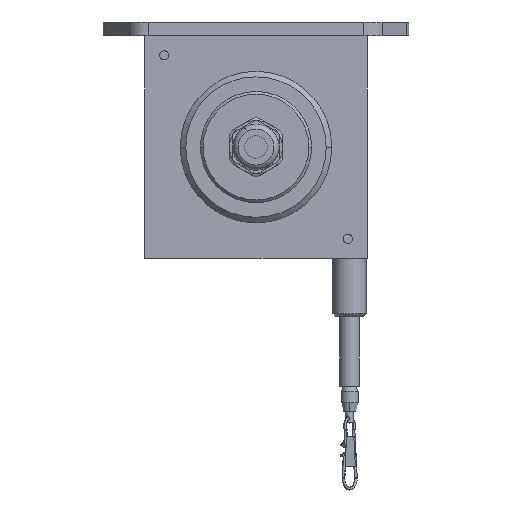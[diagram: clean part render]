
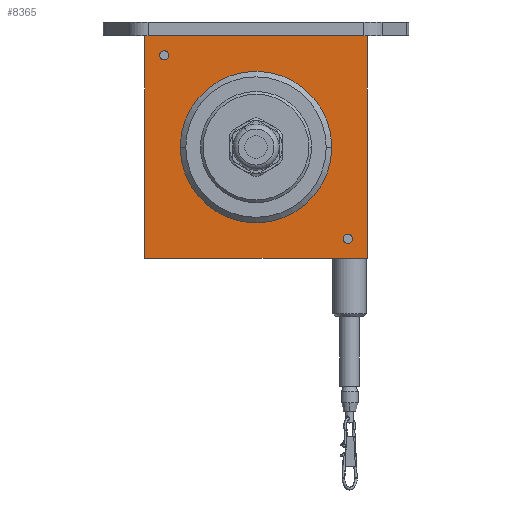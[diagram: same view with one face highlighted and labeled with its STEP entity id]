
A CAD part, left-side view. The second image highlights one B-rep face of the part: STEP entity #8365.
In plain terms, the highlighted planar face has unit normal (-1, 0, 0).
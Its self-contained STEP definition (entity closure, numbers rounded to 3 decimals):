
#417 = EDGE_LOOP ( 'NONE', ( #6076, #10473 ) ) ;
#421 = AXIS2_PLACEMENT_3D ( 'NONE', #4428, #12563, #5581 ) ;
#609 = EDGE_CURVE ( 'NONE', #4855, #6072, #11496, .T. ) ;
#1260 = VECTOR ( 'NONE', #12044, 1000. ) ;
#1294 = AXIS2_PLACEMENT_3D ( 'NONE', #6927, #15196, #8089 ) ;
#1425 = AXIS2_PLACEMENT_3D ( 'NONE', #8734, #4161, #12309 ) ;
#1435 = CARTESIAN_POINT ( 'NONE',  ( -29.5, 33., 34.65 ) ) ;
#1484 = VECTOR ( 'NONE', #15186, 1000. ) ;
#1851 = VECTOR ( 'NONE', #2708, 1000. ) ;
#2692 = AXIS2_PLACEMENT_3D ( 'NONE', #4385, #12527, #5541 ) ;
#2707 = CARTESIAN_POINT ( 'NONE',  ( -29.5, 40., -40. ) ) ;
#2708 = DIRECTION ( 'NONE',  ( 0., 0., 1. ) ) ;
#3200 = VECTOR ( 'NONE', #11842, 1000. ) ;
#3284 = FACE_BOUND ( 'NONE', #417, .T. ) ;
#3570 = CARTESIAN_POINT ( 'NONE',  ( -29.5, 40., 40. ) ) ;
#4075 = ORIENTED_EDGE ( 'NONE', *, *, #5668, .F. ) ;
#4161 = DIRECTION ( 'NONE',  ( 1., 0., 0. ) ) ;
#4249 = DIRECTION ( 'NONE',  ( 1., 0., 0. ) ) ;
#4385 = CARTESIAN_POINT ( 'NONE',  ( -29.5, 33., 33. ) ) ;
#4428 = CARTESIAN_POINT ( 'NONE',  ( -29.5, -33., -33. ) ) ;
#4727 = ORIENTED_EDGE ( 'NONE', *, *, #9326, .T. ) ;
#4855 = VERTEX_POINT ( 'NONE', #5114 ) ;
#5086 = CIRCLE ( 'NONE', #1294, 27.25 ) ;
#5114 = CARTESIAN_POINT ( 'NONE',  ( -29.5, -27.25, 0. ) ) ;
#5541 = DIRECTION ( 'NONE',  ( 0., 0., 1. ) ) ;
#5575 = EDGE_LOOP ( 'NONE', ( #4075, #11592 ) ) ;
#5581 = DIRECTION ( 'NONE',  ( 0., 0., 1. ) ) ;
#5584 = CARTESIAN_POINT ( 'NONE',  ( -29.5, 27.25, 0. ) ) ;
#5668 = EDGE_CURVE ( 'NONE', #6072, #4855, #5086, .T. ) ;
#5876 = CARTESIAN_POINT ( 'NONE',  ( -29.5, -33., -31.35 ) ) ;
#6020 = FACE_OUTER_BOUND ( 'NONE', #11481, .T. ) ;
#6072 = VERTEX_POINT ( 'NONE', #5584 ) ;
#6076 = ORIENTED_EDGE ( 'NONE', *, *, #8477, .T. ) ;
#6156 = VERTEX_POINT ( 'NONE', #6869 ) ;
#6434 = CIRCLE ( 'NONE', #2692, 1.65 ) ;
#6549 = CARTESIAN_POINT ( 'NONE',  ( -29.5, 0., 0. ) ) ;
#6661 = CARTESIAN_POINT ( 'NONE',  ( -29.5, 33., 33. ) ) ;
#6869 = CARTESIAN_POINT ( 'NONE',  ( -29.5, 40., -40. ) ) ;
#6888 = EDGE_CURVE ( 'NONE', #9632, #7667, #6434, .T. ) ;
#6927 = CARTESIAN_POINT ( 'NONE',  ( -29.5, 0., 0. ) ) ;
#7006 = EDGE_CURVE ( 'NONE', #12832, #12887, #7681, .T. ) ;
#7528 = AXIS2_PLACEMENT_3D ( 'NONE', #11206, #4249, #12396 ) ;
#7547 = ORIENTED_EDGE ( 'NONE', *, *, #13940, .T. ) ;
#7667 = VERTEX_POINT ( 'NONE', #1435 ) ;
#7681 = LINE ( 'NONE', #8081, #1484 ) ;
#7825 = DIRECTION ( 'NONE',  ( 0., 0., 1. ) ) ;
#7931 = EDGE_CURVE ( 'NONE', #14529, #11527, #15046, .T. ) ;
#8081 = CARTESIAN_POINT ( 'NONE',  ( -29.5, 38.84, 40. ) ) ;
#8089 = DIRECTION ( 'NONE',  ( 0., 1., 0. ) ) ;
#8177 = ORIENTED_EDGE ( 'NONE', *, *, #7931, .T. ) ;
#8261 = EDGE_CURVE ( 'NONE', #12832, #6156, #13367, .T. ) ;
#8352 = CIRCLE ( 'NONE', #11826, 1.65 ) ;
#8365 = ADVANCED_FACE ( 'NONE', ( #12242, #6020, #3284, #9082 ), #11062, .F. ) ;
#8399 = LINE ( 'NONE', #13197, #1851 ) ;
#8477 = EDGE_CURVE ( 'NONE', #7667, #9632, #8352, .T. ) ;
#8734 = CARTESIAN_POINT ( 'NONE',  ( -29.5, 59.526, 0. ) ) ;
#9082 = FACE_BOUND ( 'NONE', #12139, .T. ) ;
#9326 = EDGE_CURVE ( 'NONE', #11527, #14529, #10535, .T. ) ;
#9493 = CARTESIAN_POINT ( 'NONE',  ( -29.5, 40., -40. ) ) ;
#9632 = VERTEX_POINT ( 'NONE', #11910 ) ;
#10473 = ORIENTED_EDGE ( 'NONE', *, *, #6888, .T. ) ;
#10535 = CIRCLE ( 'NONE', #7528, 1.65 ) ;
#10616 = ORIENTED_EDGE ( 'NONE', *, *, #14716, .T. ) ;
#10851 = ORIENTED_EDGE ( 'NONE', *, *, #7006, .F. ) ;
#11062 = PLANE ( 'NONE',  #1425 ) ;
#11178 = VERTEX_POINT ( 'NONE', #12328 ) ;
#11206 = CARTESIAN_POINT ( 'NONE',  ( -29.5, -33., -33. ) ) ;
#11481 = EDGE_LOOP ( 'NONE', ( #10616, #10851, #13220, #7547 ) ) ;
#11496 = CIRCLE ( 'NONE', #12061, 27.25 ) ;
#11527 = VERTEX_POINT ( 'NONE', #13253 ) ;
#11592 = ORIENTED_EDGE ( 'NONE', *, *, #609, .F. ) ;
#11826 = AXIS2_PLACEMENT_3D ( 'NONE', #6661, #14924, #7825 ) ;
#11842 = DIRECTION ( 'NONE',  ( 0., -1., 0. ) ) ;
#11910 = CARTESIAN_POINT ( 'NONE',  ( -29.5, 33., 31.35 ) ) ;
#12044 = DIRECTION ( 'NONE',  ( 0., 0., -1. ) ) ;
#12061 = AXIS2_PLACEMENT_3D ( 'NONE', #6549, #12122, #12125 ) ;
#12122 = DIRECTION ( 'NONE',  ( -1., 0., 0. ) ) ;
#12125 = DIRECTION ( 'NONE',  ( 0., 1., 0. ) ) ;
#12139 = EDGE_LOOP ( 'NONE', ( #8177, #4727 ) ) ;
#12242 = FACE_BOUND ( 'NONE', #5575, .T. ) ;
#12309 = DIRECTION ( 'NONE',  ( 0., 1., 0. ) ) ;
#12328 = CARTESIAN_POINT ( 'NONE',  ( -29.5, -40., -40. ) ) ;
#12396 = DIRECTION ( 'NONE',  ( 0., 0., 1. ) ) ;
#12513 = LINE ( 'NONE', #9493, #3200 ) ;
#12527 = DIRECTION ( 'NONE',  ( 1., 0., 0. ) ) ;
#12563 = DIRECTION ( 'NONE',  ( 1., 0., 0. ) ) ;
#12758 = CARTESIAN_POINT ( 'NONE',  ( -29.5, -40., 40. ) ) ;
#12832 = VERTEX_POINT ( 'NONE', #3570 ) ;
#12887 = VERTEX_POINT ( 'NONE', #12758 ) ;
#13197 = CARTESIAN_POINT ( 'NONE',  ( -29.5, -40., -40. ) ) ;
#13220 = ORIENTED_EDGE ( 'NONE', *, *, #8261, .T. ) ;
#13253 = CARTESIAN_POINT ( 'NONE',  ( -29.5, -33., -34.65 ) ) ;
#13367 = LINE ( 'NONE', #2707, #1260 ) ;
#13940 = EDGE_CURVE ( 'NONE', #6156, #11178, #12513, .T. ) ;
#14529 = VERTEX_POINT ( 'NONE', #5876 ) ;
#14716 = EDGE_CURVE ( 'NONE', #11178, #12887, #8399, .T. ) ;
#14924 = DIRECTION ( 'NONE',  ( 1., 0., 0. ) ) ;
#15046 = CIRCLE ( 'NONE', #421, 1.65 ) ;
#15186 = DIRECTION ( 'NONE',  ( 0., -1., 0. ) ) ;
#15196 = DIRECTION ( 'NONE',  ( -1., 0., 0. ) ) ;
